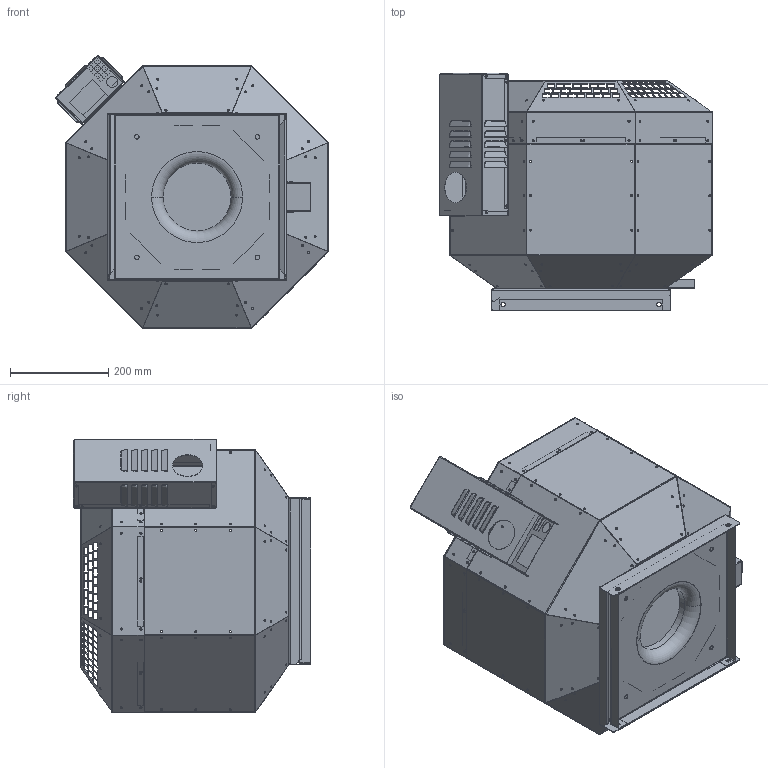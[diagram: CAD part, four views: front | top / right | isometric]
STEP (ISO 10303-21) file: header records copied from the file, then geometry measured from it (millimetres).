
FILE_DESCRIPTION (( 'STEP AP203' ), '1' );
FILE_NAME ('145173-01_DVNI225EC30_step.step', '2018-08-30T06:15:32', ( '' ), ( '' ), 'SwSTEP 2.0', 'SolidWorks 2017', '' );
FILE_SCHEMA (( 'CONFIG_CONTROL_DESIGN' ));
Products named in the file (1): 145173-01_DVNI225EC30_step
Bounding box: 555.07 x 481.99 x 555.07 mm (x, y, z)
Surface area: 2519031.5 mm2 (no closed solid volume)
Topology: 0 solids, 37 shells, 1640 faces, 6802 edges, 4864 vertices
Faces by surface type: plane 1070, cylinder 488, bspline 80, torus 2
Entity records: 88415 total; most frequent: CARTESIAN_POINT 31971, DIRECTION 10763, ORIENTED_EDGE 10647, EDGE_CURVE 6802, LINE 4961, VECTOR 4961, VERTEX_POINT 4864, AXIS2_PLACEMENT_3D 2901
